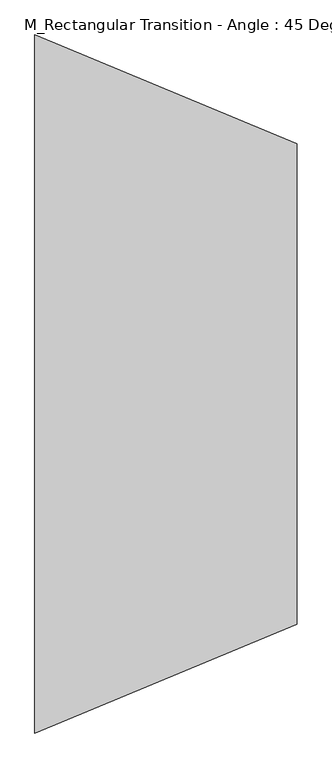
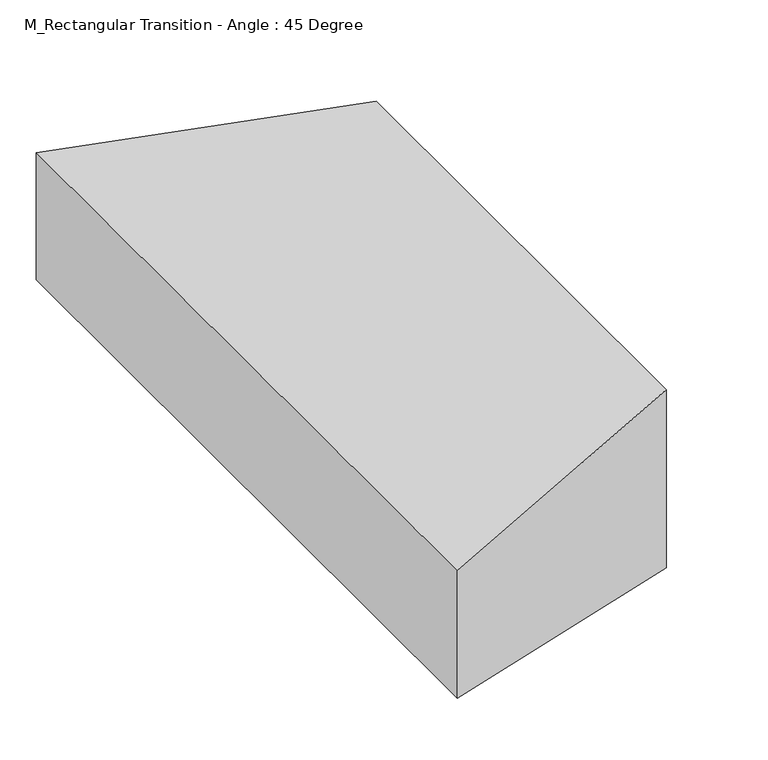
"""IFC4 building model written with IfcOpenShell, lengths in millimetres: duct fitting geometry, M_Rectangular Transition - Angle : 45 Degree."""

from ifc_helpers import new_model, si_unit, origin, place, context, project, spatial, faceted_brep, source, transform, mapped, element, save


def m_rectangular_transition_angle_45_degree_d2868699(model_context):
    return source(origin(), model_context, "Body", "Brep", [
        faceted_brep([(436.8217664, -400.0, 150.0), (436.8217664, -400.0, -150.0), (436.8217664, 400.0, -150.0), (436.8217664, 400.0, 150.0), (0.0, -580.9375, 107.1375), (0.0, 580.9375, 107.1375), (0.0, 580.9375, -107.1375), (0.0, -580.9375, -107.1375)], [[[0, 1, 2, 3]], [[4, 5, 6, 7]], [[4, 7, 1, 0]], [[7, 6, 2, 1]], [[6, 5, 3, 2]], [[5, 4, 0, 3]]]),
    ])


if __name__ == "__main__":
    model = new_model("IFC4")
    model_context = context("Model", 3, world=origin())
    ifc_project = project(units=[si_unit("LENGTHUNIT", "METRE", prefix="MILLI")], contexts=[model_context])
    site = spatial("IfcSite", under=ifc_project)
    building = spatial("IfcBuilding", under=site)
    placement = place(None, origin())
    m_rectangular_transition_angle_45_degree_shape = m_rectangular_transition_angle_45_degree_d2868699(model_context)
    element("IfcDuctFitting", 1, ObjectType="M_Rectangular Transition - Angle : 45 Degree", at=placement, inside=building, context=model_context, shape_type="MappedRepresentation", body=[
        mapped(m_rectangular_transition_angle_45_degree_shape, transform((0.0, 0.0, 0.0), x_axis=(1.0, 0.0, 0.0), y_axis=(0.0, 1.0, 0.0), z_axis=(0.0, 0.0, 1.0))),
    ])
    save(model, "model.ifc")
